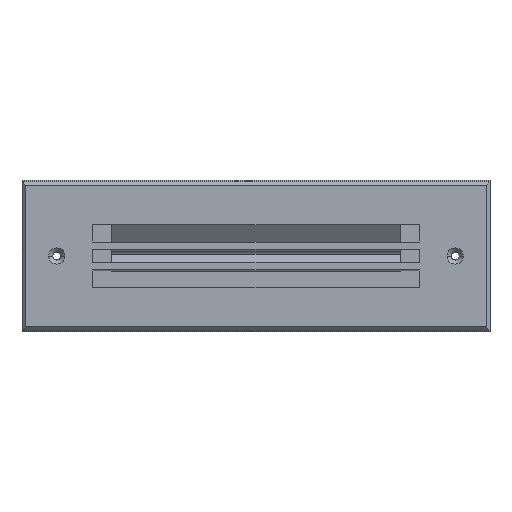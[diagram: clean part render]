
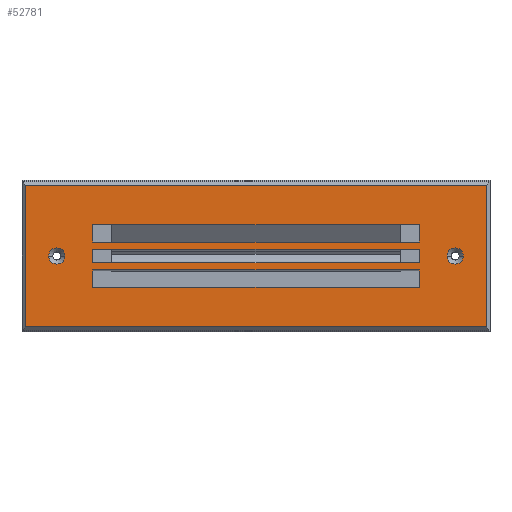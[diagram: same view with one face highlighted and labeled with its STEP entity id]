
A CAD part, front view. The second image highlights one B-rep face of the part: STEP entity #52781.
In plain terms, the highlighted planar face has unit normal (0, -1, 0) as drawn and (0, 0, 1) by its records, which use the part's own axes.
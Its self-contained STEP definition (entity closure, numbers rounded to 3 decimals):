
#52312=DIRECTION('',(0.,-1.,0.));
#52313=VECTOR('',#52312,7.167);
#52314=CARTESIAN_POINT('',(-68.,13.,0.));
#52315=LINE('',#52314,#52313);
#52316=DIRECTION('',(1.,0.,0.));
#52317=VECTOR('',#52316,136.);
#52318=CARTESIAN_POINT('',(-68.,5.833,0.));
#52319=LINE('',#52318,#52317);
#52320=DIRECTION('',(0.,1.,0.));
#52321=VECTOR('',#52320,7.167);
#52322=CARTESIAN_POINT('',(68.,5.833,0.));
#52323=LINE('',#52322,#52321);
#52324=DIRECTION('',(-1.,0.,0.));
#52325=VECTOR('',#52324,136.);
#52326=CARTESIAN_POINT('',(68.,13.,0.));
#52327=LINE('',#52326,#52325);
#52328=DIRECTION('',(0.,1.,0.));
#52329=VECTOR('',#52328,5.667);
#52330=CARTESIAN_POINT('',(68.,-2.833,0.));
#52331=LINE('',#52330,#52329);
#52332=DIRECTION('',(0.,-1.,0.));
#52333=VECTOR('',#52332,5.667);
#52334=CARTESIAN_POINT('',(-68.,2.833,0.));
#52335=LINE('',#52334,#52333);
#52336=DIRECTION('',(1.,0.,0.));
#52337=VECTOR('',#52336,136.);
#52338=CARTESIAN_POINT('',(-68.,-2.833,0.));
#52339=LINE('',#52338,#52337);
#52340=DIRECTION('',(0.,1.,0.));
#52341=VECTOR('',#52340,7.167);
#52342=CARTESIAN_POINT('',(68.,-13.,0.));
#52343=LINE('',#52342,#52341);
#52344=DIRECTION('',(0.,-1.,0.));
#52345=VECTOR('',#52344,7.167);
#52346=CARTESIAN_POINT('',(-68.,-5.833,0.));
#52347=LINE('',#52346,#52345);
#52348=DIRECTION('',(1.,0.,0.));
#52349=VECTOR('',#52348,136.);
#52350=CARTESIAN_POINT('',(-68.,-13.,0.));
#52351=LINE('',#52350,#52349);
#52352=DIRECTION('',(1.,0.,0.));
#52353=VECTOR('',#52352,192.);
#52354=CARTESIAN_POINT('',(-96.,-29.5,0.));
#52355=LINE('',#52354,#52353);
#52356=DIRECTION('',(0.,-1.,0.));
#52357=VECTOR('',#52356,59.);
#52358=CARTESIAN_POINT('',(-96.,29.5,0.));
#52359=LINE('',#52358,#52357);
#52360=DIRECTION('',(-1.,0.,0.));
#52361=VECTOR('',#52360,192.);
#52362=CARTESIAN_POINT('',(96.,29.5,0.));
#52363=LINE('',#52362,#52361);
#52364=DIRECTION('',(0.,1.,0.));
#52365=VECTOR('',#52364,59.);
#52366=CARTESIAN_POINT('',(96.,-29.5,0.));
#52367=LINE('',#52366,#52365);
#52368=CARTESIAN_POINT('',(83.,0.,0.));
#52369=DIRECTION('',(0.,0.,-1.));
#52370=DIRECTION('',(1.,0.,0.));
#52371=AXIS2_PLACEMENT_3D('',#52368,#52369,#52370);
#52373=CARTESIAN_POINT('',(83.,0.,0.));
#52374=DIRECTION('',(0.,0.,-1.));
#52375=DIRECTION('',(-1.,0.,0.));
#52376=AXIS2_PLACEMENT_3D('',#52373,#52374,#52375);
#52378=CARTESIAN_POINT('',(-83.,0.,0.));
#52379=DIRECTION('',(0.,0.,-1.));
#52380=DIRECTION('',(1.,0.,0.));
#52381=AXIS2_PLACEMENT_3D('',#52378,#52379,#52380);
#52383=CARTESIAN_POINT('',(-83.,0.,0.));
#52384=DIRECTION('',(0.,0.,-1.));
#52385=DIRECTION('',(-1.,0.,0.));
#52386=AXIS2_PLACEMENT_3D('',#52383,#52384,#52385);
#52416=DIRECTION('',(1.,0.,0.));
#52417=VECTOR('',#52416,136.);
#52418=CARTESIAN_POINT('',(-68.,-5.833,0.));
#52419=LINE('',#52418,#52417);
#52616=DIRECTION('',(1.,0.,0.));
#52617=VECTOR('',#52616,136.);
#52618=CARTESIAN_POINT('',(-68.,2.833,0.));
#52619=LINE('',#52618,#52617);
#52628=CARTESIAN_POINT('',(-68.,-13.,0.));
#52629=CARTESIAN_POINT('',(68.,-13.,0.));
#52630=VERTEX_POINT('',#52628);
#52631=VERTEX_POINT('',#52629);
#52632=CARTESIAN_POINT('',(68.,13.,0.));
#52633=CARTESIAN_POINT('',(-68.,13.,0.));
#52634=VERTEX_POINT('',#52632);
#52635=VERTEX_POINT('',#52633);
#52660=CARTESIAN_POINT('',(68.,-5.833,0.));
#52662=VERTEX_POINT('',#52660);
#52666=CARTESIAN_POINT('',(68.,-2.833,0.));
#52667=VERTEX_POINT('',#52666);
#52668=CARTESIAN_POINT('',(68.,2.833,0.));
#52670=VERTEX_POINT('',#52668);
#52674=CARTESIAN_POINT('',(68.,5.833,0.));
#52675=VERTEX_POINT('',#52674);
#52676=CARTESIAN_POINT('',(-68.,-5.833,0.));
#52678=VERTEX_POINT('',#52676);
#52682=CARTESIAN_POINT('',(-68.,-2.833,0.));
#52683=VERTEX_POINT('',#52682);
#52684=CARTESIAN_POINT('',(-68.,2.833,0.));
#52686=VERTEX_POINT('',#52684);
#52690=CARTESIAN_POINT('',(-68.,5.833,0.));
#52691=VERTEX_POINT('',#52690);
#52696=CARTESIAN_POINT('',(-96.,-29.5,0.));
#52697=CARTESIAN_POINT('',(96.,-29.5,0.));
#52698=VERTEX_POINT('',#52696);
#52699=VERTEX_POINT('',#52697);
#52702=CARTESIAN_POINT('',(-96.,29.5,0.));
#52703=VERTEX_POINT('',#52702);
#52706=CARTESIAN_POINT('',(96.,29.5,0.));
#52707=VERTEX_POINT('',#52706);
#52708=CARTESIAN_POINT('',(86.373,0.,0.));
#52709=CARTESIAN_POINT('',(79.627,0.,0.));
#52710=VERTEX_POINT('',#52708);
#52711=VERTEX_POINT('',#52709);
#52716=CARTESIAN_POINT('',(-79.627,0.,0.));
#52717=CARTESIAN_POINT('',(-86.373,0.,0.));
#52718=VERTEX_POINT('',#52716);
#52719=VERTEX_POINT('',#52717);
#52724=CARTESIAN_POINT('',(0.,0.,0.));
#52725=DIRECTION('',(0.,0.,1.));
#52726=DIRECTION('',(1.,0.,0.));
#52727=AXIS2_PLACEMENT_3D('',#52724,#52725,#52726);
#52728=PLANE('',#52727);
#52730=ORIENTED_EDGE('',*,*,#52729,.F.);
#52732=ORIENTED_EDGE('',*,*,#52731,.F.);
#52734=ORIENTED_EDGE('',*,*,#52733,.F.);
#52736=ORIENTED_EDGE('',*,*,#52735,.F.);
#52737=EDGE_LOOP('',(#52730,#52732,#52734,#52736));
#52738=FACE_OUTER_BOUND('',#52737,.F.);
#52740=ORIENTED_EDGE('',*,*,#52739,.T.);
#52742=ORIENTED_EDGE('',*,*,#52741,.F.);
#52744=ORIENTED_EDGE('',*,*,#52743,.T.);
#52746=ORIENTED_EDGE('',*,*,#52745,.T.);
#52747=EDGE_LOOP('',(#52740,#52742,#52744,#52746));
#52748=FACE_BOUND('',#52747,.F.);
#52750=ORIENTED_EDGE('',*,*,#52749,.T.);
#52752=ORIENTED_EDGE('',*,*,#52751,.F.);
#52754=ORIENTED_EDGE('',*,*,#52753,.T.);
#52756=ORIENTED_EDGE('',*,*,#52755,.T.);
#52757=EDGE_LOOP('',(#52750,#52752,#52754,#52756));
#52758=FACE_BOUND('',#52757,.F.);
#52760=ORIENTED_EDGE('',*,*,#52759,.T.);
#52762=ORIENTED_EDGE('',*,*,#52761,.T.);
#52764=ORIENTED_EDGE('',*,*,#52763,.T.);
#52766=ORIENTED_EDGE('',*,*,#52765,.T.);
#52767=EDGE_LOOP('',(#52760,#52762,#52764,#52766));
#52768=FACE_BOUND('',#52767,.F.);
#52770=ORIENTED_EDGE('',*,*,#52769,.F.);
#52772=ORIENTED_EDGE('',*,*,#52771,.F.);
#52773=EDGE_LOOP('',(#52770,#52772));
#52774=FACE_BOUND('',#52773,.F.);
#52776=ORIENTED_EDGE('',*,*,#52775,.F.);
#52778=ORIENTED_EDGE('',*,*,#52777,.F.);
#52779=EDGE_LOOP('',(#52776,#52778));
#52780=FACE_BOUND('',#52779,.F.);
#52372=CIRCLE('',#52371,3.373);
#52377=CIRCLE('',#52376,3.373);
#52382=CIRCLE('',#52381,3.373);
#52387=CIRCLE('',#52386,3.373);
#52729=EDGE_CURVE('',#52698,#52699,#52355,.T.);
#52731=EDGE_CURVE('',#52703,#52698,#52359,.T.);
#52733=EDGE_CURVE('',#52707,#52703,#52363,.T.);
#52735=EDGE_CURVE('',#52699,#52707,#52367,.T.);
#52739=EDGE_CURVE('',#52667,#52670,#52331,.T.);
#52741=EDGE_CURVE('',#52686,#52670,#52619,.T.);
#52743=EDGE_CURVE('',#52686,#52683,#52335,.T.);
#52745=EDGE_CURVE('',#52683,#52667,#52339,.T.);
#52749=EDGE_CURVE('',#52631,#52662,#52343,.T.);
#52751=EDGE_CURVE('',#52678,#52662,#52419,.T.);
#52753=EDGE_CURVE('',#52678,#52630,#52347,.T.);
#52755=EDGE_CURVE('',#52630,#52631,#52351,.T.);
#52759=EDGE_CURVE('',#52635,#52691,#52315,.T.);
#52761=EDGE_CURVE('',#52691,#52675,#52319,.T.);
#52763=EDGE_CURVE('',#52675,#52634,#52323,.T.);
#52765=EDGE_CURVE('',#52634,#52635,#52327,.T.);
#52769=EDGE_CURVE('',#52710,#52711,#52372,.T.);
#52771=EDGE_CURVE('',#52711,#52710,#52377,.T.);
#52775=EDGE_CURVE('',#52718,#52719,#52382,.T.);
#52777=EDGE_CURVE('',#52719,#52718,#52387,.T.);
#52781=ADVANCED_FACE('',(#52738,#52748,#52758,#52768,#52774,#52780),#52728,.T.);
